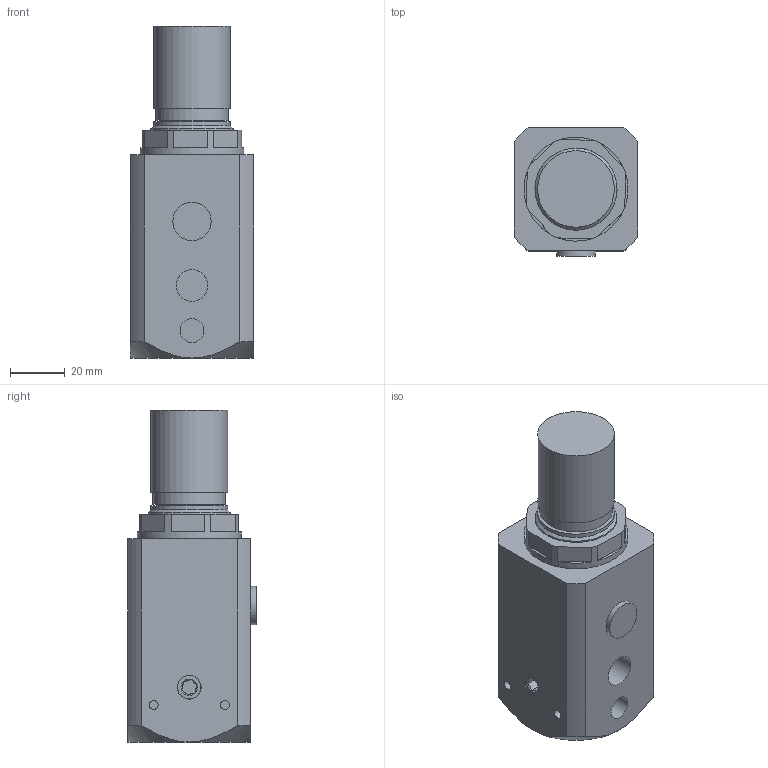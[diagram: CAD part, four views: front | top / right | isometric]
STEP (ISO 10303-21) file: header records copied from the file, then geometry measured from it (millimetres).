
FILE_DESCRIPTION(/* description */ ('REG. DI PRECISIONE TG1 x VUOTO'),/* implementation_level */ '2;1');
FILE_NAME(/* name */ 'C:\PNX_VAULTFOLDER\Area Tecnica\Disegni\VARIE-3D\Componenti\1900 (vuoto)\171S2B000V.stp',/* time_stamp */ '2019-09-13T15:03:57+02:00',/* author */ ('maniean1'),/* organization */ (''),/* preprocessor_version */ 'ST-DEVELOPER v17',/* originating_system */ 'Autodesk Inventor 2019',/* authorisation */ '');
FILE_SCHEMA (('AUTOMOTIVE_DESIGN { 1 0 10303 214 3 1 1 }'));
Length unit declared in the file: millimetre
Products named in the file (4): 171S2B000V; 171S2B000V_c; RS/1701/12; RK/1701/020
Assembly tree (4 placements, depth 2):
  171S2B000V
    171S2B000V_c
    RS/1701/12
    RK/1701/020  x2
Bounding box: 45 x 47 x 121.3 mm (x, y, z)
Volume: 176017.9 mm3; surface area: 26431 mm2
Topology: 4 solids, 4 shells, 104 faces, 271 edges, 194 vertices
Faces by surface type: plane 59, cylinder 28, cone 15, torus 2
Full cylindrical faces by diameter (mm): 3.3 x4, 4.2 x1, 6.5 x2, 8.5 x2, 8.7 x3, 10 x2, 11.6 x2, 14 x1, 23.5 x1, 26.5 x1, 28 x2, 30 x2, 38 x1
Entity records: 2869 total; most frequent: CARTESIAN_POINT 507, DIRECTION 499, ORIENTED_EDGE 436, EDGE_CURVE 218, AXIS2_PLACEMENT_3D 208, VERTEX_POINT 156, CIRCLE 115, EDGE_LOOP 104
